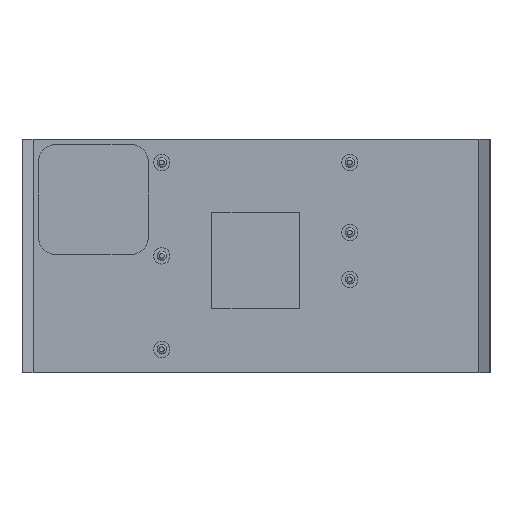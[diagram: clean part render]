
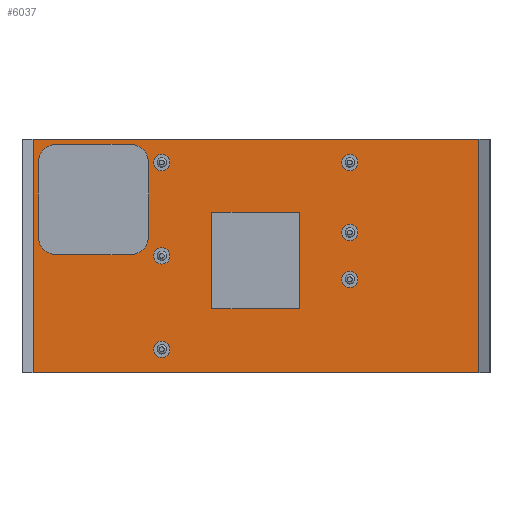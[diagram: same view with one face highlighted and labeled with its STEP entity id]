
A CAD part, front view. The second image highlights one B-rep face of the part: STEP entity #6037.
In plain terms, the highlighted planar face has unit normal (0, -1, 0) as drawn and (0, 0, 1) by its records, which use the part's own axes.
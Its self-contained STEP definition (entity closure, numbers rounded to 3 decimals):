
#5732=CARTESIAN_POINT('',(11.978,7.007,1.0));
#5733=VERTEX_POINT('',#5732);
#5734=CARTESIAN_POINT('',(11.468,7.007,1.0));
#5735=DIRECTION('',(0.0,0.0,-1.0));
#5736=DIRECTION('',(-1.0,0.0,0.0));
#5737=AXIS2_PLACEMENT_3D('',#5734,#5735,#5736);
#5738=CIRCLE('',#5737,0.51);
#5739=EDGE_CURVE('',#5733,#5733,#5738,.T.);
#5760=CARTESIAN_POINT('',(11.978,17.167,1.0));
#5761=VERTEX_POINT('',#5760);
#5762=CARTESIAN_POINT('',(11.468,17.167,1.0));
#5763=DIRECTION('',(0.0,0.0,-1.0));
#5764=DIRECTION('',(-1.0,0.0,0.0));
#5765=AXIS2_PLACEMENT_3D('',#5762,#5763,#5764);
#5766=CIRCLE('',#5765,0.51);
#5767=EDGE_CURVE('',#5761,#5761,#5766,.T.);
#5788=CARTESIAN_POINT('',(-8.472,4.467,1.0));
#5789=VERTEX_POINT('',#5788);
#5790=CARTESIAN_POINT('',(-8.982,4.467,1.0));
#5791=DIRECTION('',(0.0,0.0,-1.0));
#5792=DIRECTION('',(-1.0,0.0,0.0));
#5793=AXIS2_PLACEMENT_3D('',#5790,#5791,#5792);
#5794=CIRCLE('',#5793,0.51);
#5795=EDGE_CURVE('',#5789,#5789,#5794,.T.);
#5816=CARTESIAN_POINT('',(-8.472,-3.153,1.0));
#5817=VERTEX_POINT('',#5816);
#5818=CARTESIAN_POINT('',(-8.982,-3.153,1.0));
#5819=DIRECTION('',(0.0,0.0,-1.0));
#5820=DIRECTION('',(-1.0,0.0,0.0));
#5821=AXIS2_PLACEMENT_3D('',#5818,#5819,#5820);
#5822=CIRCLE('',#5821,0.51);
#5823=EDGE_CURVE('',#5817,#5817,#5822,.T.);
#5844=CARTESIAN_POINT('',(11.978,-3.153,1.0));
#5845=VERTEX_POINT('',#5844);
#5846=CARTESIAN_POINT('',(11.468,-3.153,1.0));
#5847=DIRECTION('',(0.0,0.0,-1.0));
#5848=DIRECTION('',(-1.0,0.0,0.0));
#5849=AXIS2_PLACEMENT_3D('',#5846,#5847,#5848);
#5850=CIRCLE('',#5849,0.51);
#5851=EDGE_CURVE('',#5845,#5845,#5850,.T.);
#5872=CARTESIAN_POINT('',(-8.472,9.557,1.0));
#5873=VERTEX_POINT('',#5872);
#5874=CARTESIAN_POINT('',(-8.982,9.557,1.0));
#5875=DIRECTION('',(0.0,0.0,-1.0));
#5876=DIRECTION('',(-1.0,0.0,0.0));
#5877=AXIS2_PLACEMENT_3D('',#5874,#5875,#5876);
#5878=CIRCLE('',#5877,0.51);
#5879=EDGE_CURVE('',#5873,#5873,#5878,.T.);
#5889=CARTESIAN_POINT('',(25.651,19.667,1.0));
#5890=VERTEX_POINT('',#5889);
#5891=CARTESIAN_POINT('',(25.651,-5.683,1.0));
#5892=VERTEX_POINT('',#5891);
#5893=CARTESIAN_POINT('',(25.651,19.667,1.0));
#5894=DIRECTION('',(0.0,-1.0,0.0));
#5895=VECTOR('',#5894,25.35);
#5896=LINE('',#5893,#5895);
#5897=EDGE_CURVE('',#5890,#5892,#5896,.T.);
#5929=CARTESIAN_POINT('',(-23.199,-5.683,1.0));
#5930=VERTEX_POINT('',#5929);
#5931=CARTESIAN_POINT('',(25.651,-5.683,1.0));
#5932=DIRECTION('',(-1.0,0.0,0.0));
#5933=VECTOR('',#5932,48.85);
#5934=LINE('',#5931,#5933);
#5935=EDGE_CURVE('',#5892,#5930,#5934,.T.);
#5960=CARTESIAN_POINT('',(-23.199,19.667,1.0));
#5961=VERTEX_POINT('',#5960);
#5962=CARTESIAN_POINT('',(-23.199,-5.683,1.0));
#5963=DIRECTION('',(0.0,1.0,0.0));
#5964=VECTOR('',#5963,25.35);
#5965=LINE('',#5962,#5964);
#5966=EDGE_CURVE('',#5930,#5961,#5965,.T.);
#5991=CARTESIAN_POINT('',(-23.199,19.667,1.0));
#5992=DIRECTION('',(1.0,0.0,0.0));
#5993=VECTOR('',#5992,48.85);
#5994=LINE('',#5991,#5993);
#5995=EDGE_CURVE('',#5961,#5890,#5994,.T.);
#6008=CARTESIAN_POINT('',(1.226,6.992,1.0));
#6009=DIRECTION('',(0.0,0.0,1.0));
#6010=DIRECTION('',(1.0,0.0,0.0));
#6011=AXIS2_PLACEMENT_3D('',#6008,#6009,#6010);
#6012=PLANE('',#6011);
#6013=ORIENTED_EDGE('',*,*,#5897,.F.);
#6014=ORIENTED_EDGE('',*,*,#5995,.F.);
#6015=ORIENTED_EDGE('',*,*,#5966,.F.);
#6016=ORIENTED_EDGE('',*,*,#5935,.F.);
#6017=EDGE_LOOP('',(#6013,#6014,#6015,#6016));
#6018=FACE_OUTER_BOUND('',#6017,.T.);
#6019=ORIENTED_EDGE('',*,*,#5739,.T.);
#6020=EDGE_LOOP('',(#6019));
#6021=FACE_BOUND('',#6020,.T.);
#6022=ORIENTED_EDGE('',*,*,#5767,.T.);
#6023=EDGE_LOOP('',(#6022));
#6024=FACE_BOUND('',#6023,.T.);
#6025=ORIENTED_EDGE('',*,*,#5795,.T.);
#6026=EDGE_LOOP('',(#6025));
#6027=FACE_BOUND('',#6026,.T.);
#6028=ORIENTED_EDGE('',*,*,#5823,.T.);
#6029=EDGE_LOOP('',(#6028));
#6030=FACE_BOUND('',#6029,.T.);
#6031=ORIENTED_EDGE('',*,*,#5851,.T.);
#6032=EDGE_LOOP('',(#6031));
#6033=FACE_BOUND('',#6032,.T.);
#6034=ORIENTED_EDGE('',*,*,#5879,.T.);
#6035=EDGE_LOOP('',(#6034));
#6036=FACE_BOUND('',#6035,.T.);
#6037=ADVANCED_FACE('',(#6018,#6021,#6024,#6027,#6030,#6033,#6036),#6012,.T.);
